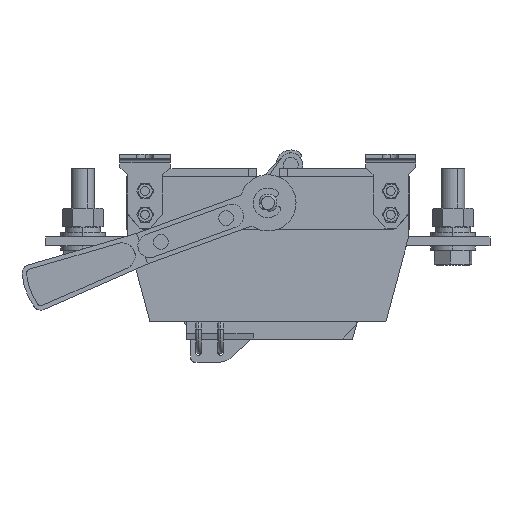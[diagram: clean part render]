
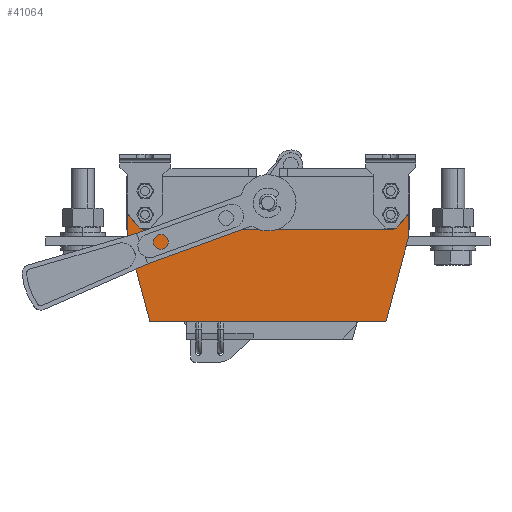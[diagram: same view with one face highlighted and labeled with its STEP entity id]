
A CAD part, left-side view. The second image highlights one B-rep face of the part: STEP entity #41064.
In plain terms, the highlighted planar face has unit normal (-1, 0, 0).
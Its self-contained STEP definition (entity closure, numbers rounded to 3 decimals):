
#10207 = VECTOR ( 'NONE', #10414, 1000. ) ;
#10414 = DIRECTION ( 'NONE',  ( 0., 1., 0. ) ) ;
#11483 = DIRECTION ( 'NONE',  ( 0., 1., 0. ) ) ;
#11484 = DIRECTION ( 'NONE',  ( -1., 0., 0. ) ) ;
#11485 = AXIS2_PLACEMENT_3D ( 'NONE', #11493, #11484, #11483 ) ;
#11488 = DIRECTION ( 'NONE',  ( 0., 1., 0. ) ) ;
#11489 = DIRECTION ( 'NONE',  ( -1., 0., 0. ) ) ;
#11490 = CARTESIAN_POINT ( 'NONE',  ( -111.5, 95., -23. ) ) ;
#11491 = CARTESIAN_POINT ( 'NONE',  ( -111.5, 79.727, -80. ) ) ;
#11492 = LINE ( 'NONE', #11491, #11544 ) ;
#11493 = CARTESIAN_POINT ( 'NONE',  ( -111.5, 83., -8. ) ) ;
#11494 = FACE_BOUND ( 'NONE', #41081, .T. ) ;
#11495 = FACE_OUTER_BOUND ( 'NONE', #41070, .T. ) ;
#11498 = FACE_BOUND ( 'NONE', #41092, .T. ) ;
#11499 = PLANE ( 'NONE',  #11513 ) ;
#11502 = CARTESIAN_POINT ( 'NONE',  ( -111.5, 79.5, -8. ) ) ;
#11507 = CARTESIAN_POINT ( 'NONE',  ( -111.5, 86.5, -8. ) ) ;
#11508 = CIRCLE ( 'NONE', #11485, 3.5 ) ;
#11510 = CARTESIAN_POINT ( 'NONE',  ( -111.5, 0., 0. ) ) ;
#11511 = CARTESIAN_POINT ( 'NONE',  ( -111.5, -95., -1. ) ) ;
#11512 = CARTESIAN_POINT ( 'NONE',  ( -111.5, 95., -1. ) ) ;
#11513 = AXIS2_PLACEMENT_3D ( 'NONE', #11510, #11489, #11488 ) ;
#11531 = DIRECTION ( 'NONE',  ( 0., -1., 0. ) ) ;
#11532 = DIRECTION ( 'NONE',  ( -1., 0., 0. ) ) ;
#11533 = CARTESIAN_POINT ( 'NONE',  ( -111.5, -83., -8. ) ) ;
#11534 = AXIS2_PLACEMENT_3D ( 'NONE', #11533, #11532, #11531 ) ;
#11535 = CIRCLE ( 'NONE', #11534, 3.5 ) ;
#11537 = DIRECTION ( 'NONE',  ( 0., 0., -1. ) ) ;
#11538 = VECTOR ( 'NONE', #11537, 1000. ) ;
#11539 = CARTESIAN_POINT ( 'NONE',  ( -111.5, 95., -23. ) ) ;
#11540 = LINE ( 'NONE', #11539, #11538 ) ;
#11543 = DIRECTION ( 'NONE',  ( 0., -0.259, -0.966 ) ) ;
#11544 = VECTOR ( 'NONE', #11543, 1000. ) ;
#11545 = CARTESIAN_POINT ( 'NONE',  ( -111.5, 79.727, -80. ) ) ;
#11546 = CARTESIAN_POINT ( 'NONE',  ( -111.5, -7.937, -1. ) ) ;
#11547 = CARTESIAN_POINT ( 'NONE',  ( -111.5, -79.5, -8. ) ) ;
#11548 = DIRECTION ( 'NONE',  ( 0., -0.259, 0.966 ) ) ;
#11549 = VECTOR ( 'NONE', #11548, 1000. ) ;
#11551 = CARTESIAN_POINT ( 'NONE',  ( -111.5, -79.727, -80. ) ) ;
#11552 = DIRECTION ( 'NONE',  ( 0., 1., 0. ) ) ;
#11553 = VECTOR ( 'NONE', #11552, 1000. ) ;
#11554 = CARTESIAN_POINT ( 'NONE',  ( -111.5, -7.937, -1. ) ) ;
#11556 = DIRECTION ( 'NONE',  ( 0., -1., 0. ) ) ;
#11557 = VECTOR ( 'NONE', #11556, 1000. ) ;
#11558 = CARTESIAN_POINT ( 'NONE',  ( -111.5, -79.727, -80. ) ) ;
#11559 = CARTESIAN_POINT ( 'NONE',  ( -111.5, 7.937, -1. ) ) ;
#11564 = LINE ( 'NONE', #11558, #11557 ) ;
#11565 = CARTESIAN_POINT ( 'NONE',  ( -111.5, -79.727, -80. ) ) ;
#11569 = LINE ( 'NONE', #11554, #11553 ) ;
#11572 = LINE ( 'NONE', #11551, #11549 ) ;
#11577 = CARTESIAN_POINT ( 'NONE',  ( -111.5, -95., -23. ) ) ;
#11578 = DIRECTION ( 'NONE',  ( 0., 1., 0. ) ) ;
#11579 = DIRECTION ( 'NONE',  ( -1., 0., 0. ) ) ;
#11580 = CARTESIAN_POINT ( 'NONE',  ( -111.5, 83., -8. ) ) ;
#11581 = AXIS2_PLACEMENT_3D ( 'NONE', #11580, #11579, #11578 ) ;
#11589 = CIRCLE ( 'NONE', #11581, 3.5 ) ;
#11597 = CIRCLE ( 'NONE', #11618, 8. ) ;
#11602 = CARTESIAN_POINT ( 'NONE',  ( -111.5, -86.5, -8. ) ) ;
#11603 = CIRCLE ( 'NONE', #11657, 3.5 ) ;
#11605 = DIRECTION ( 'NONE',  ( 0., 0., 1. ) ) ;
#11606 = VECTOR ( 'NONE', #11605, 1000. ) ;
#11607 = CARTESIAN_POINT ( 'NONE',  ( -111.5, -95., -23. ) ) ;
#11608 = LINE ( 'NONE', #11607, #11606 ) ;
#11617 = CARTESIAN_POINT ( 'NONE',  ( -111.5, 0., 0. ) ) ;
#11618 = AXIS2_PLACEMENT_3D ( 'NONE', #11617, #11660, #11659 ) ;
#11651 = DIRECTION ( 'NONE',  ( 0., -1., 0. ) ) ;
#11652 = DIRECTION ( 'NONE',  ( -1., 0., 0. ) ) ;
#11653 = CARTESIAN_POINT ( 'NONE',  ( -111.5, -83., -8. ) ) ;
#11657 = AXIS2_PLACEMENT_3D ( 'NONE', #11653, #11652, #11651 ) ;
#11659 = DIRECTION ( 'NONE',  ( 0., 1., 0. ) ) ;
#11660 = DIRECTION ( 'NONE',  ( 1., 0., 0. ) ) ;
#11707 = CARTESIAN_POINT ( 'NONE',  ( -111.5, 95., -1. ) ) ;
#11708 = LINE ( 'NONE', #11707, #10207 ) ;
#41062 = VERTEX_POINT ( 'NONE', #11507 ) ;
#41063 = VERTEX_POINT ( 'NONE', #11502 ) ;
#41064 = ADVANCED_FACE ( 'NONE', ( #11498, #11495, #11494 ), #11499, .T. ) ;
#41065 = VERTEX_POINT ( 'NONE', #11511 ) ;
#41066 = EDGE_CURVE ( 'NONE', #41063, #41062, #11508, .T. ) ;
#41067 = VERTEX_POINT ( 'NONE', #11512 ) ;
#41068 = VERTEX_POINT ( 'NONE', #11490 ) ;
#41069 = ORIENTED_EDGE ( 'NONE', *, *, #41066, .F. ) ;
#41070 = EDGE_LOOP ( 'NONE', ( #41071, #41101, #41194, #41107, #41127, #41128, #41131, #41080 ) ) ;
#41071 = ORIENTED_EDGE ( 'NONE', *, *, #41079, .T. ) ;
#41073 = EDGE_CURVE ( 'NONE', #41068, #41075, #11492, .T. ) ;
#41074 = VERTEX_POINT ( 'NONE', #11546 ) ;
#41075 = VERTEX_POINT ( 'NONE', #11545 ) ;
#41079 = EDGE_CURVE ( 'NONE', #41067, #41068, #11540, .T. ) ;
#41080 = ORIENTED_EDGE ( 'NONE', *, *, #41181, .T. ) ;
#41081 = EDGE_LOOP ( 'NONE', ( #41082, #41085 ) ) ;
#41082 = ORIENTED_EDGE ( 'NONE', *, *, #41132, .F. ) ;
#41083 = EDGE_CURVE ( 'NONE', #41106, #41130, #11535, .T. ) ;
#41085 = ORIENTED_EDGE ( 'NONE', *, *, #41083, .F. ) ;
#41092 = EDGE_LOOP ( 'NONE', ( #41096, #41069 ) ) ;
#41096 = ORIENTED_EDGE ( 'NONE', *, *, #41115, .F. ) ;
#41099 = VERTEX_POINT ( 'NONE', #11565 ) ;
#41101 = ORIENTED_EDGE ( 'NONE', *, *, #41073, .T. ) ;
#41102 = EDGE_CURVE ( 'NONE', #41075, #41099, #11564, .T. ) ;
#41103 = VERTEX_POINT ( 'NONE', #11559 ) ;
#41104 = EDGE_CURVE ( 'NONE', #41065, #41074, #11569, .T. ) ;
#41105 = EDGE_CURVE ( 'NONE', #41099, #41117, #11572, .T. ) ;
#41106 = VERTEX_POINT ( 'NONE', #11547 ) ;
#41107 = ORIENTED_EDGE ( 'NONE', *, *, #41105, .T. ) ;
#41115 = EDGE_CURVE ( 'NONE', #41062, #41063, #11589, .T. ) ;
#41117 = VERTEX_POINT ( 'NONE', #11577 ) ;
#41126 = EDGE_CURVE ( 'NONE', #41117, #41065, #11608, .T. ) ;
#41127 = ORIENTED_EDGE ( 'NONE', *, *, #41126, .T. ) ;
#41128 = ORIENTED_EDGE ( 'NONE', *, *, #41104, .T. ) ;
#41129 = EDGE_CURVE ( 'NONE', #41074, #41103, #11597, .T. ) ;
#41130 = VERTEX_POINT ( 'NONE', #11602 ) ;
#41131 = ORIENTED_EDGE ( 'NONE', *, *, #41129, .T. ) ;
#41132 = EDGE_CURVE ( 'NONE', #41130, #41106, #11603, .T. ) ;
#41181 = EDGE_CURVE ( 'NONE', #41103, #41067, #11708, .T. ) ;
#41194 = ORIENTED_EDGE ( 'NONE', *, *, #41102, .T. ) ;
